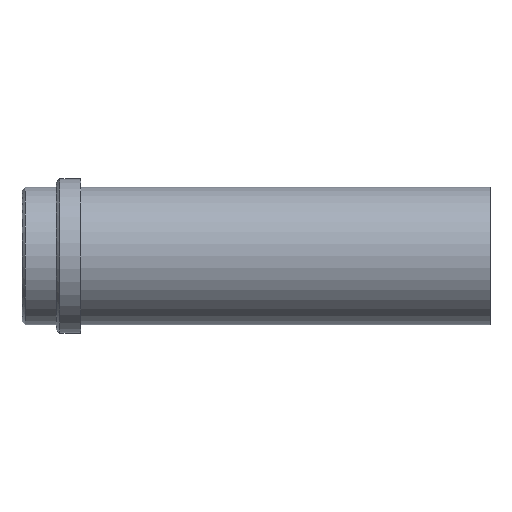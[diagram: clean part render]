
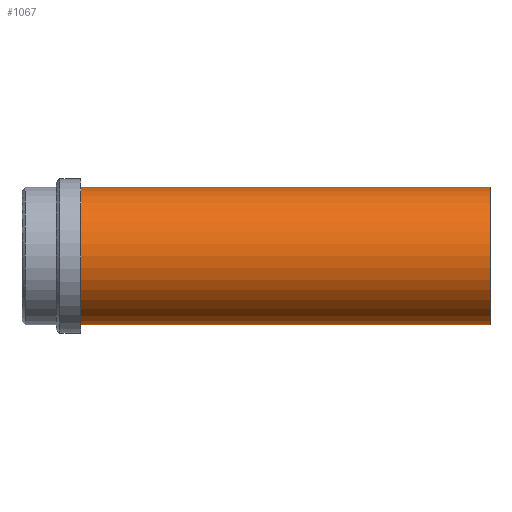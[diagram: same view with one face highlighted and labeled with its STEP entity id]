
A CAD part, front view. The second image highlights one B-rep face of the part: STEP entity #1067.
In plain terms, the highlighted cylindrical face has radius 20 mm (diameter 40 mm), a partial arc.
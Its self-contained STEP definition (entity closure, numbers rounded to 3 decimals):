
#953=CARTESIAN_POINT('Vertex',(0.,0.,-20.)) ;
#958=CARTESIAN_POINT('Axis2P3D Location',(0.,0.,0.)) ;
#962=CARTESIAN_POINT('Vertex',(0.,-20.,0.)) ;
#965=CARTESIAN_POINT('Axis2P3D Location',(0.,0.,0.)) ;
#969=CARTESIAN_POINT('Vertex',(0.,0.,20.)) ;
#995=CARTESIAN_POINT('Vertex',(119.,0.,20.)) ;
#998=CARTESIAN_POINT('Axis2P3D Location',(119.,0.,0.)) ;
#1002=CARTESIAN_POINT('Vertex',(119.,-20.,0.)) ;
#1005=CARTESIAN_POINT('Axis2P3D Location',(119.,0.,0.)) ;
#1009=CARTESIAN_POINT('Vertex',(119.,0.,-20.)) ;
#1035=CARTESIAN_POINT('Line Origine',(119.,0.,20.)) ;
#1040=CARTESIAN_POINT('Line Origine',(119.,0.,-20.)) ;
#1054=CARTESIAN_POINT('Axis2P3D Location',(119.,0.,0.)) ;
#959=DIRECTION('Axis2P3D Direction',(1.,0.,-0.)) ;
#966=DIRECTION('Axis2P3D Direction',(1.,0.,-0.)) ;
#999=DIRECTION('Axis2P3D Direction',(1.,0.,-0.)) ;
#1006=DIRECTION('Axis2P3D Direction',(1.,0.,-0.)) ;
#1036=DIRECTION('Vector Direction',(-1.,0.,0.)) ;
#1041=DIRECTION('Vector Direction',(-1.,0.,0.)) ;
#1055=DIRECTION('Axis2P3D Direction',(-1.,-0.,-0.)) ;
#1056=DIRECTION('Axis2P3D XDirection',(0.,0.,-1.)) ;
#960=AXIS2_PLACEMENT_3D('Circle Axis2P3D',#958,#959,$) ;
#967=AXIS2_PLACEMENT_3D('Circle Axis2P3D',#965,#966,$) ;
#1000=AXIS2_PLACEMENT_3D('Circle Axis2P3D',#998,#999,$) ;
#1007=AXIS2_PLACEMENT_3D('Circle Axis2P3D',#1005,#1006,$) ;
#1057=AXIS2_PLACEMENT_3D('Cylinder Axis2P3D',#1054,#1055,#1056) ;
#1060=ORIENTED_EDGE('',*,*,#1044,.T.) ;
#1061=ORIENTED_EDGE('',*,*,#1011,.F.) ;
#1062=ORIENTED_EDGE('',*,*,#1004,.F.) ;
#1063=ORIENTED_EDGE('',*,*,#1039,.T.) ;
#1064=ORIENTED_EDGE('',*,*,#971,.T.) ;
#1065=ORIENTED_EDGE('',*,*,#964,.T.) ;
#1037=VECTOR('Line Direction',#1036,1.) ;
#1042=VECTOR('Line Direction',#1041,1.) ;
#1067=ADVANCED_FACE('358-32X136',(#1066),#1058,.T.) ;
#961=CIRCLE('generated circle',#960,20.) ;
#968=CIRCLE('generated circle',#967,20.) ;
#1001=CIRCLE('generated circle',#1000,20.) ;
#1008=CIRCLE('generated circle',#1007,20.) ;
#1058=CYLINDRICAL_SURFACE('generated cylinder',#1057,20.) ;
#964=EDGE_CURVE('',#963,#954,#961,.T.) ;
#971=EDGE_CURVE('',#970,#963,#968,.T.) ;
#1004=EDGE_CURVE('',#996,#1003,#1001,.T.) ;
#1011=EDGE_CURVE('',#1003,#1010,#1008,.T.) ;
#1039=EDGE_CURVE('',#996,#970,#1038,.T.) ;
#1044=EDGE_CURVE('',#954,#1010,#1043,.F.) ;
#1059=EDGE_LOOP('',(#1060,#1061,#1062,#1063,#1064,#1065)) ;
#1066=FACE_OUTER_BOUND('',#1059,.T.) ;
#1038=LINE('Line',#1035,#1037) ;
#1043=LINE('Line',#1040,#1042) ;
#954=VERTEX_POINT('',#953) ;
#963=VERTEX_POINT('',#962) ;
#970=VERTEX_POINT('',#969) ;
#996=VERTEX_POINT('',#995) ;
#1003=VERTEX_POINT('',#1002) ;
#1010=VERTEX_POINT('',#1009) ;
